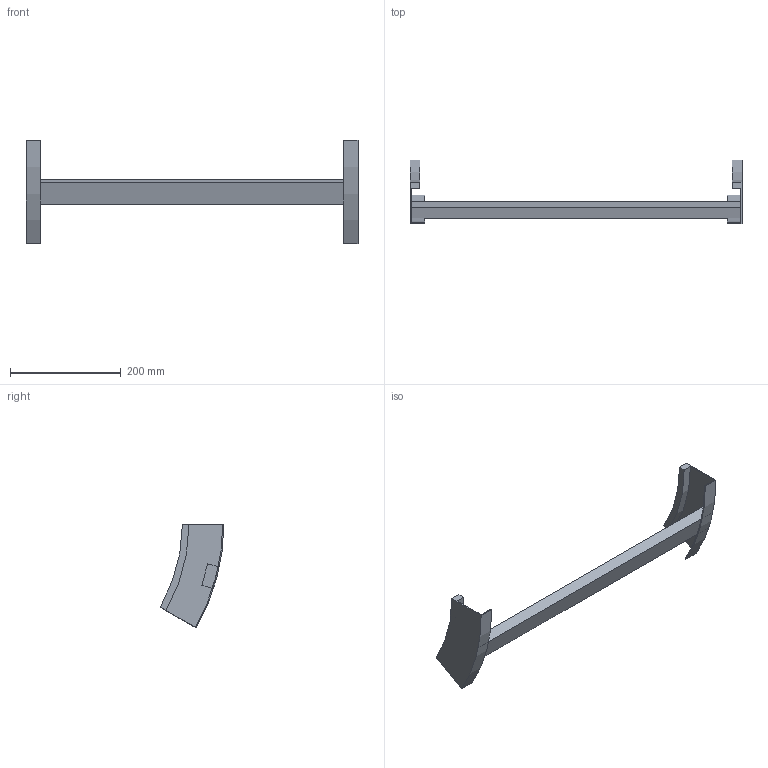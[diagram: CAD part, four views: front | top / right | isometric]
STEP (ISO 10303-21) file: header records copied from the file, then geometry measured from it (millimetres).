
FILE_DESCRIPTION (( 'STEP AP214' ), '1' );
FILE_NAME ('B2X32B3C600XX.step', '2025-03-20T10:02:57', ( '' ), ( '' ), 'SwSTEP 2.0', 'SolidWorks 2023', '' );
FILE_SCHEMA (( 'AUTOMOTIVE_DESIGN' ));
Length unit declared in the file: millimetre
Products named in the file (3): B2_LONGH.SALITA_30°_H75_R300; TRAVERSINO_600; B2X32B3C600XX
Assembly tree (3 placements, depth 2):
  B2X32B3C600XX
    B2_LONGH.SALITA_30°_H75_R300  x2
    TRAVERSINO_600
Bounding box: 600 x 115.19 x 187.5 mm (x, y, z)
Volume: 616881.9 mm3; surface area: 159568.8 mm2
Topology: 3 solids, 3 shells, 26 faces, 60 edges, 40 vertices
Faces by surface type: plane 18, cylinder 8
Entity records: 544 total; most frequent: DIRECTION 88, CARTESIAN_POINT 82, ORIENTED_EDGE 72, EDGE_CURVE 36, AXIS2_PLACEMENT_3D 30, VECTOR 28, LINE 28, VERTEX_POINT 24
